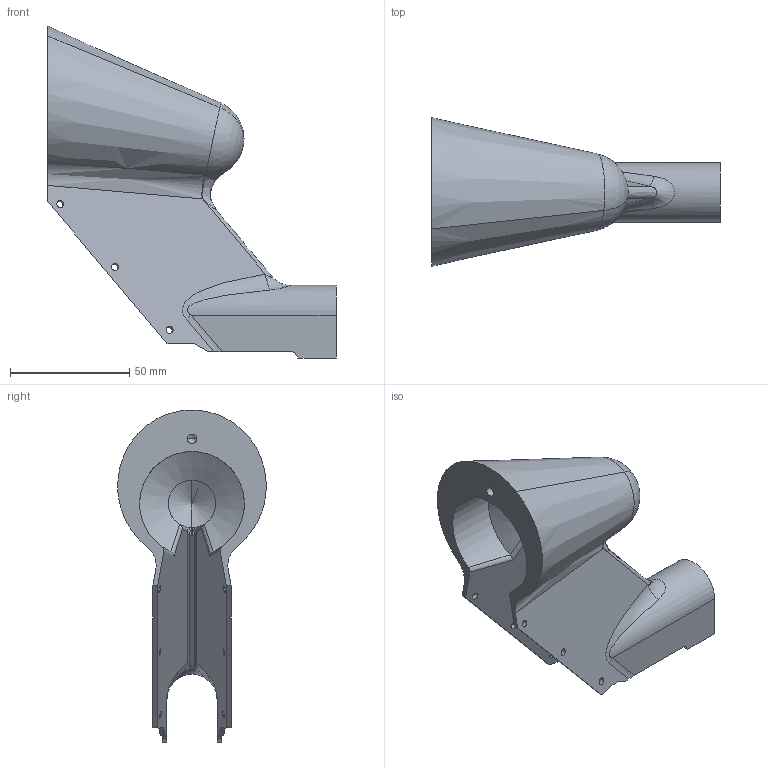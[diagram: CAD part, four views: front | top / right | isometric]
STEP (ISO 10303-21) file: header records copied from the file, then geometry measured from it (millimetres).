
FILE_DESCRIPTION(('CATIA V5 STEP Exchange','CAx-IF Rec.Pracs.--- Model Styling and Organization---1.5--- 2016-08-15','CAx-IF Rec.Pracs.---Supplemental Geometry---1.0---2011-11-01','CAx-IF Rec.Pracs.--- Composite Materials ---1.1---2010-07-15'),'2;1');
FILE_NAME('W:\8-25-003 RENOVATION DEBITMETRE PHI100 A S3\CATIA\Etude\S3MA-8-25003-1002--_CAPOT_BA_DARD-N-00853.stp','2026-02-06T10:08:17+00:00',('none'),('none'),'CATIA Version 5-6 Release 2020 SP6 HF13','CATIA V5 STEP AP214 v2','none');
FILE_SCHEMA(('AUTOMOTIVE_DESIGN { 1 0 10303 214 1 1 1 1 }'));
Length unit declared in the file: millimetre
Products named in the file (1): S3MA-8-25003-1002--_CAPOT_BA_DARD-N-00853
Bounding box: 121 x 62.37 x 139.4 mm (x, y, z)
Volume: 112308.6 mm3; surface area: 41571.2 mm2
Topology: 1 solids, 1 shells, 90 faces, 246 edges, 153 vertices
Faces by surface type: cylinder 28, bspline 26, plane 23, cone 8, torus 2, sphere 2, extrusion 1
Entity records: 6262 total; most frequent: CARTESIAN_POINT 4325, ORIENTED_EDGE 480, EDGE_CURVE 240, DIRECTION 236, VERTEX_POINT 153, EDGE_LOOP 103, AXIS2_PLACEMENT_3D 100, VECTOR 94
